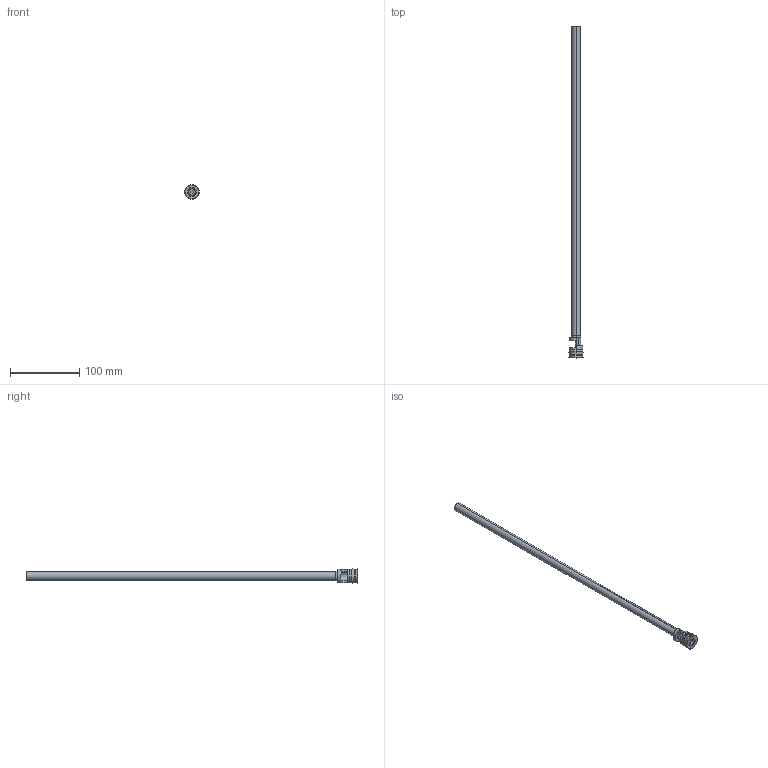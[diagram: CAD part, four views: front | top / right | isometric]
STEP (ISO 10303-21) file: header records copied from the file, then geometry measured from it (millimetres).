
FILE_DESCRIPTION (( 'STEP AP203' ), '1' );
FILE_NAME ('RF-20Fx450.STEP', '2015-11-24T13:36:49', ( 'Balzi' ), ( '' ), 'SwSTEP 2.0', 'SolidWorks 2015', '' );
FILE_SCHEMA (( 'CONFIG_CONTROL_DESIGN' ));
Length unit declared in the file: millimetre
Products named in the file (1): RF-20Fx450
Bounding box: 21.5 x 479.5 x 21.5 mm (x, y, z)
Volume: 13638.6 mm3; surface area: 36054.6 mm2
Topology: 1 solids, 1 shells, 74 faces, 170 edges, 106 vertices
Faces by surface type: cylinder 26, plane 26, cone 14, torus 8
Entity records: 2194 total; most frequent: DIRECTION 401, CARTESIAN_POINT 370, ORIENTED_EDGE 340, EDGE_CURVE 170, AXIS2_PLACEMENT_3D 161, VERTEX_POINT 106, CIRCLE 86, EDGE_LOOP 84
